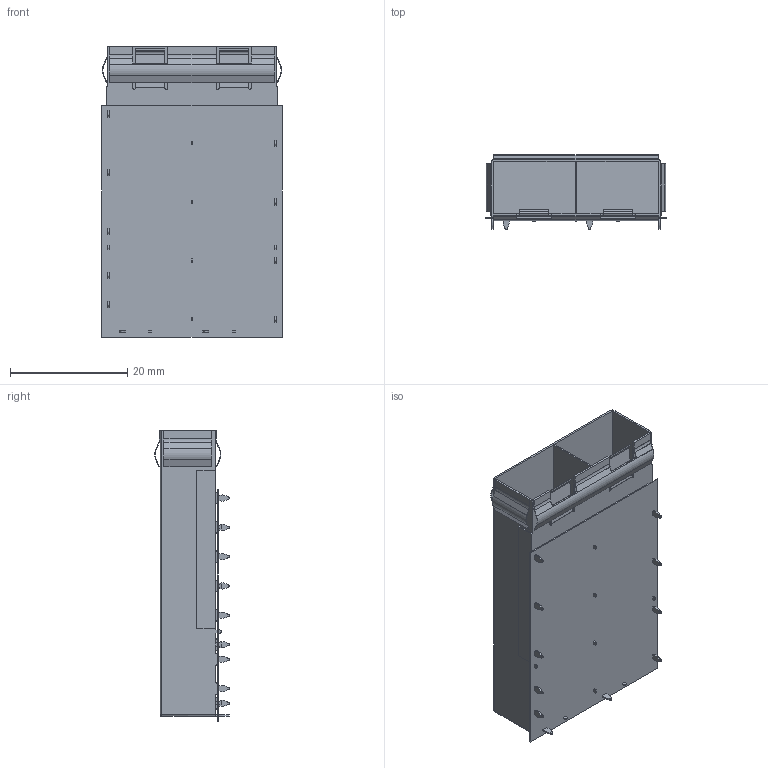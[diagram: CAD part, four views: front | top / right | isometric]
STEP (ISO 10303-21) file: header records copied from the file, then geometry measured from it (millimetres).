
FILE_DESCRIPTION(/* description */ (''),/* implementation_level */ '2;1');
FILE_NAME(/* name */ 'SFP28 1X2 后1脚 无月牙.stp',/* time_stamp */ '2025-08-08T10:22:06+08:00',/* author */ (''),/* organization */ (''),/* preprocessor_version */ 'ST-DEVELOPER v16.7',/* originating_system */ 'SIEMENS PLM Software NX 1847',/* authorisation */ '');
FILE_SCHEMA (('AUTOMOTIVE_DESIGN { 1 0 10303 214 3 1 1 1 }'));
Length unit declared in the file: millimetre
Products named in the file (1): Admi2FDC7D12nkxt
Bounding box: 30.82 x 12.72 x 49.59 mm (x, y, z)
Volume: 1289.7 mm3; surface area: 10931.5 mm2
Topology: 1 solids, 1 shells, 434 faces, 1284 edges, 850 vertices
Faces by surface type: plane 270, cylinder 162, sphere 2
Entity records: 14604 total; most frequent: CARTESIAN_POINT 2567, ORIENTED_EDGE 2564, DIRECTION 2482, EDGE_CURVE 1282, LINE 952, VECTOR 952, VERTEX_POINT 850, AXIS2_PLACEMENT_3D 765
